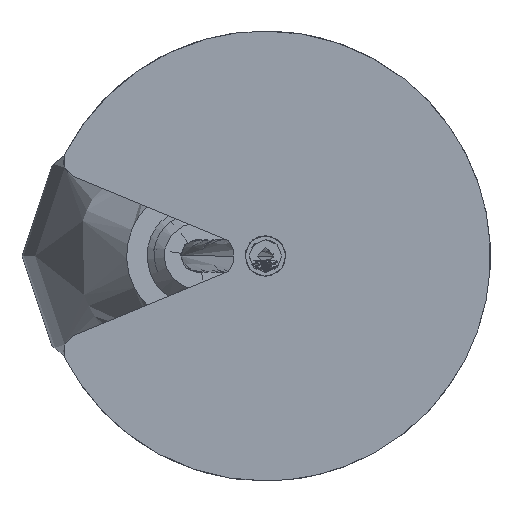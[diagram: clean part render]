
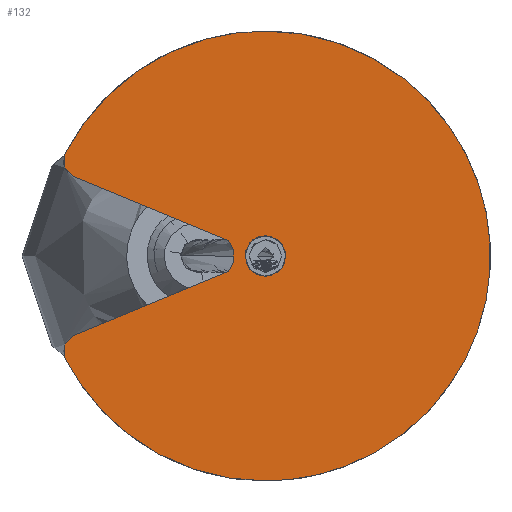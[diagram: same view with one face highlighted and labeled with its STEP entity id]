
A CAD part, front view. The second image highlights one B-rep face of the part: STEP entity #132.
In plain terms, the highlighted planar face has unit normal (0, -1, 0).
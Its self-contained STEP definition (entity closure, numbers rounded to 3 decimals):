
#43=FACE_BOUND('',#413,.T.);
#132=ADVANCED_FACE('',(#267,#43),#2056,.T.);
#267=FACE_OUTER_BOUND('',#412,.T.);
#412=EDGE_LOOP('',(#884,#885,#886,#887,#888,#889,#890,#891,#892,#893));
#413=EDGE_LOOP('',(#894,#895));
#884=ORIENTED_EDGE('',*,*,#1346,.F.);
#885=ORIENTED_EDGE('',*,*,#1359,.F.);
#886=ORIENTED_EDGE('',*,*,#1338,.F.);
#887=ORIENTED_EDGE('',*,*,#1335,.F.);
#888=ORIENTED_EDGE('',*,*,#1342,.F.);
#889=ORIENTED_EDGE('',*,*,#1362,.F.);
#890=ORIENTED_EDGE('',*,*,#1351,.F.);
#891=ORIENTED_EDGE('',*,*,#1356,.F.);
#892=ORIENTED_EDGE('',*,*,#1350,.F.);
#893=ORIENTED_EDGE('',*,*,#1354,.F.);
#894=ORIENTED_EDGE('',*,*,#1331,.T.);
#895=ORIENTED_EDGE('',*,*,#1344,.F.);
#1331=EDGE_CURVE('',#1927,#1926,#1716,.T.);
#1335=EDGE_CURVE('',#1930,#1931,#1718,.T.);
#1338=EDGE_CURVE('',#1931,#1933,#1720,.T.);
#1342=EDGE_CURVE('',#1935,#1930,#1722,.T.);
#1344=EDGE_CURVE('',#1927,#1926,#1724,.T.);
#1346=EDGE_CURVE('',#1942,#1943,#1615,.T.);
#1350=EDGE_CURVE('',#1947,#1946,#1726,.T.);
#1351=EDGE_CURVE('',#1945,#1944,#1618,.T.);
#1354=EDGE_CURVE('',#1943,#1947,#1727,.T.);
#1356=EDGE_CURVE('',#1946,#1945,#1729,.T.);
#1359=EDGE_CURVE('',#1933,#1942,#1731,.T.);
#1362=EDGE_CURVE('',#1944,#1935,#1733,.T.);
#1615=B_SPLINE_CURVE_WITH_KNOTS('',1,(#6107,#6108),.UNSPECIFIED.,.F.,.F.,
(2,2),(0.,41.045),.UNSPECIFIED.);
#1618=B_SPLINE_CURVE_WITH_KNOTS('',1,(#6119,#6120),.UNSPECIFIED.,.F.,.F.,
(2,2),(0.,41.045),.UNSPECIFIED.);
#1716=(
BOUNDED_CURVE()
B_SPLINE_CURVE(2,(#6058,#6059,#6060,#6061,#6062),.UNSPECIFIED.,.F.,.F.)
B_SPLINE_CURVE_WITH_KNOTS((3,2,3),(-15.865,-7.933,
0.),.UNSPECIFIED.)
CURVE()
GEOMETRIC_REPRESENTATION_ITEM()
RATIONAL_B_SPLINE_CURVE((1.,0.707,1.,0.707,1.))
REPRESENTATION_ITEM('')
);
#1718=(
BOUNDED_CURVE()
B_SPLINE_CURVE(2,(#6072,#6073,#6074,#6075,#6076),.UNSPECIFIED.,.F.,.F.)
B_SPLINE_CURVE_WITH_KNOTS((3,2,3),(0.,86.394,172.788),
 .UNSPECIFIED.)
CURVE()
GEOMETRIC_REPRESENTATION_ITEM()
RATIONAL_B_SPLINE_CURVE((1.,0.707,1.,0.707,1.))
REPRESENTATION_ITEM('')
);
#1720=(
BOUNDED_CURVE()
B_SPLINE_CURVE(2,(#6082,#6083,#6084),.UNSPECIFIED.,.F.,.F.)
B_SPLINE_CURVE_WITH_KNOTS((3,3),(0.,60.477),.UNSPECIFIED.)
CURVE()
GEOMETRIC_REPRESENTATION_ITEM()
RATIONAL_B_SPLINE_CURVE((1.,0.853,1.))
REPRESENTATION_ITEM('')
);
#1722=(
BOUNDED_CURVE()
B_SPLINE_CURVE(2,(#6092,#6093,#6094),.UNSPECIFIED.,.F.,.F.)
B_SPLINE_CURVE_WITH_KNOTS((3,3),(0.,60.477),.UNSPECIFIED.)
CURVE()
GEOMETRIC_REPRESENTATION_ITEM()
RATIONAL_B_SPLINE_CURVE((1.,0.853,1.))
REPRESENTATION_ITEM('')
);
#1724=(
BOUNDED_CURVE()
B_SPLINE_CURVE(2,(#6100,#6101,#6102,#6103,#6104),.UNSPECIFIED.,.F.,.F.)
B_SPLINE_CURVE_WITH_KNOTS((3,2,3),(0.,7.933,15.865),
 .UNSPECIFIED.)
CURVE()
GEOMETRIC_REPRESENTATION_ITEM()
RATIONAL_B_SPLINE_CURVE((1.,0.707,1.,0.707,1.))
REPRESENTATION_ITEM('')
);
#1726=(
BOUNDED_CURVE()
B_SPLINE_CURVE(2,(#6116,#6117,#6118),.UNSPECIFIED.,.F.,.F.)
B_SPLINE_CURVE_WITH_KNOTS((3,3),(0.,3.061),.UNSPECIFIED.)
CURVE()
GEOMETRIC_REPRESENTATION_ITEM()
RATIONAL_B_SPLINE_CURVE((1.,0.982,1.))
REPRESENTATION_ITEM('')
);
#1727=(
BOUNDED_CURVE()
B_SPLINE_CURVE(2,(#6125,#6126,#6127),.UNSPECIFIED.,.F.,.F.)
B_SPLINE_CURVE_WITH_KNOTS((3,3),(0.,2.739),.UNSPECIFIED.)
CURVE()
GEOMETRIC_REPRESENTATION_ITEM()
RATIONAL_B_SPLINE_CURVE((1.,0.775,1.))
REPRESENTATION_ITEM('')
);
#1729=(
BOUNDED_CURVE()
B_SPLINE_CURVE(2,(#6131,#6132,#6133),.UNSPECIFIED.,.F.,.F.)
B_SPLINE_CURVE_WITH_KNOTS((3,3),(0.,2.739),.UNSPECIFIED.)
CURVE()
GEOMETRIC_REPRESENTATION_ITEM()
RATIONAL_B_SPLINE_CURVE((1.,0.775,1.))
REPRESENTATION_ITEM('')
);
#1731=(
BOUNDED_CURVE()
B_SPLINE_CURVE(2,(#6139,#6140,#6141,#6142,#6143),.UNSPECIFIED.,.F.,.F.)
B_SPLINE_CURVE_WITH_KNOTS((3,2,3),(0.,3.299,6.597),
 .UNSPECIFIED.)
CURVE()
GEOMETRIC_REPRESENTATION_ITEM()
RATIONAL_B_SPLINE_CURVE((1.,0.916,1.,0.916,1.))
REPRESENTATION_ITEM('')
);
#1733=(
BOUNDED_CURVE()
B_SPLINE_CURVE(2,(#6151,#6152,#6153,#6154,#6155),.UNSPECIFIED.,.F.,.F.)
B_SPLINE_CURVE_WITH_KNOTS((3,2,3),(0.,3.299,6.597),
 .UNSPECIFIED.)
CURVE()
GEOMETRIC_REPRESENTATION_ITEM()
RATIONAL_B_SPLINE_CURVE((1.,0.916,1.,0.916,1.))
REPRESENTATION_ITEM('')
);
#1926=VERTEX_POINT('',#6029);
#1927=VERTEX_POINT('',#6030);
#1930=VERTEX_POINT('',#6033);
#1931=VERTEX_POINT('',#6034);
#1933=VERTEX_POINT('',#6036);
#1935=VERTEX_POINT('',#6038);
#1942=VERTEX_POINT('',#6045);
#1943=VERTEX_POINT('',#6046);
#1944=VERTEX_POINT('',#6047);
#1945=VERTEX_POINT('',#6048);
#1946=VERTEX_POINT('',#6049);
#1947=VERTEX_POINT('',#6050);
#2056=PLANE('',#2207);
#2207=AXIS2_PLACEMENT_3D('',#5916,#2256,$);
#2256=DIRECTION('',(0.,-1.,0.));
#5916=CARTESIAN_POINT('',(-60.28,0.,-66.));
#6029=CARTESIAN_POINT('',(0.,0.,5.05));
#6030=CARTESIAN_POINT('',(0.,0.,-5.05));
#6033=CARTESIAN_POINT('',(0.,0.,55.));
#6034=CARTESIAN_POINT('',(0.,0.,-55.));
#6036=CARTESIAN_POINT('',(-49.006,0.,-24.968));
#6038=CARTESIAN_POINT('',(-49.006,0.,24.968));
#6045=CARTESIAN_POINT('',(-46.973,0.,-19.457));
#6046=CARTESIAN_POINT('',(-9.052,0.,-3.75));
#6047=CARTESIAN_POINT('',(-46.973,0.,19.457));
#6048=CARTESIAN_POINT('',(-9.052,0.,3.75));
#6049=CARTESIAN_POINT('',(-7.854,0.,1.521));
#6050=CARTESIAN_POINT('',(-7.854,0.,-1.521));
#6058=CARTESIAN_POINT('',(0.,0.,-5.05));
#6059=CARTESIAN_POINT('',(-5.05,0.,-5.05));
#6060=CARTESIAN_POINT('',(-5.05,0.,0.));
#6061=CARTESIAN_POINT('',(-5.05,0.,5.05));
#6062=CARTESIAN_POINT('',(0.,0.,5.05));
#6072=CARTESIAN_POINT('',(0.,0.,55.));
#6073=CARTESIAN_POINT('',(55.,0.,55.));
#6074=CARTESIAN_POINT('',(55.,0.,0.));
#6075=CARTESIAN_POINT('',(55.,0.,-55.));
#6076=CARTESIAN_POINT('',(0.,0.,-55.));
#6082=CARTESIAN_POINT('',(0.,0.,-55.));
#6083=CARTESIAN_POINT('',(-33.705,0.,-55.));
#6084=CARTESIAN_POINT('',(-49.006,0.,-24.968));
#6092=CARTESIAN_POINT('',(-49.006,0.,24.968));
#6093=CARTESIAN_POINT('',(-33.705,0.,55.));
#6094=CARTESIAN_POINT('',(0.,0.,55.));
#6100=CARTESIAN_POINT('',(0.,0.,-5.05));
#6101=CARTESIAN_POINT('',(5.05,0.,-5.05));
#6102=CARTESIAN_POINT('',(5.05,0.,0.));
#6103=CARTESIAN_POINT('',(5.05,0.,5.05));
#6104=CARTESIAN_POINT('',(0.,0.,5.05));
#6107=CARTESIAN_POINT('',(-46.973,0.,-19.457));
#6108=CARTESIAN_POINT('',(-9.052,0.,-3.75));
#6116=CARTESIAN_POINT('',(-7.854,0.,-1.521));
#6117=CARTESIAN_POINT('',(-8.149,0.,0.));
#6118=CARTESIAN_POINT('',(-7.854,0.,1.521));
#6119=CARTESIAN_POINT('',(-9.052,0.,3.75));
#6120=CARTESIAN_POINT('',(-46.973,0.,19.457));
#6125=CARTESIAN_POINT('',(-9.052,0.,-3.75));
#6126=CARTESIAN_POINT('',(-7.543,0.,-3.125));
#6127=CARTESIAN_POINT('',(-7.854,0.,-1.521));
#6131=CARTESIAN_POINT('',(-7.854,0.,1.521));
#6132=CARTESIAN_POINT('',(-7.543,0.,3.125));
#6133=CARTESIAN_POINT('',(-9.052,0.,3.75));
#6139=CARTESIAN_POINT('',(-49.006,0.,-24.968));
#6140=CARTESIAN_POINT('',(-49.8,0.,-23.409));
#6141=CARTESIAN_POINT('',(-49.195,0.,-21.768));
#6142=CARTESIAN_POINT('',(-48.589,0.,-20.126));
#6143=CARTESIAN_POINT('',(-46.973,0.,-19.457));
#6151=CARTESIAN_POINT('',(-46.973,0.,19.457));
#6152=CARTESIAN_POINT('',(-48.589,0.,20.126));
#6153=CARTESIAN_POINT('',(-49.195,0.,21.768));
#6154=CARTESIAN_POINT('',(-49.8,0.,23.409));
#6155=CARTESIAN_POINT('',(-49.006,0.,24.968));
